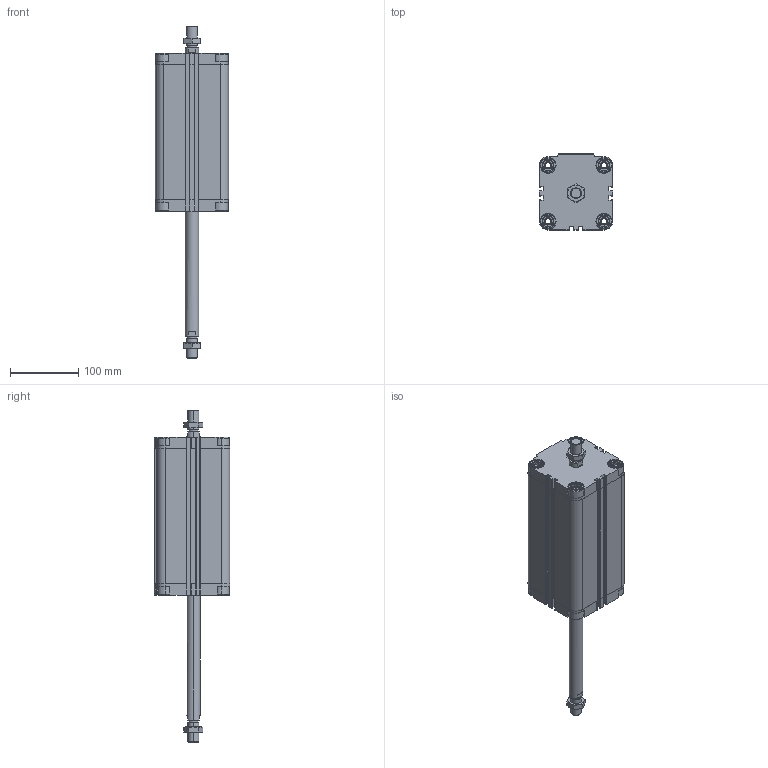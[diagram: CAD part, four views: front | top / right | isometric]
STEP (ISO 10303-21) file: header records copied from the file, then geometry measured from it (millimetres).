
FILE_DESCRIPTION (( 'STEP AP203' ), '1' );
FILE_NAME ('CDVU80-175M-P.STEP', '2020-07-21T15:27:06', ( '' ), ( '' ), 'SwSTEP 2.0', 'SolidWorks 2019', '' );
FILE_SCHEMA (( 'CONFIG_CONTROL_DESIGN' ));
Length unit declared in the file: millimetre
Products named in the file (1): CDVU80-175M-P
Bounding box: 107 x 111 x 486 mm (x, y, z)
Volume: 1706226.9 mm3; surface area: 288096.4 mm2
Topology: 4 solids, 4 shells, 706 faces, 1888 edges, 1234 vertices
Faces by surface type: plane 410, cylinder 216, cone 80
Entity records: 22967 total; most frequent: CARTESIAN_POINT 5177, ORIENTED_EDGE 3768, DIRECTION 3610, EDGE_CURVE 1884, AXIS2_PLACEMENT_3D 1235, VERTEX_POINT 1234, LINE 1140, VECTOR 1140
